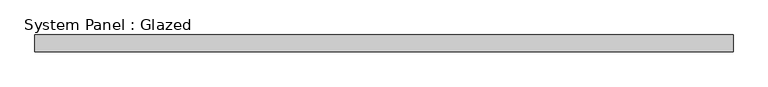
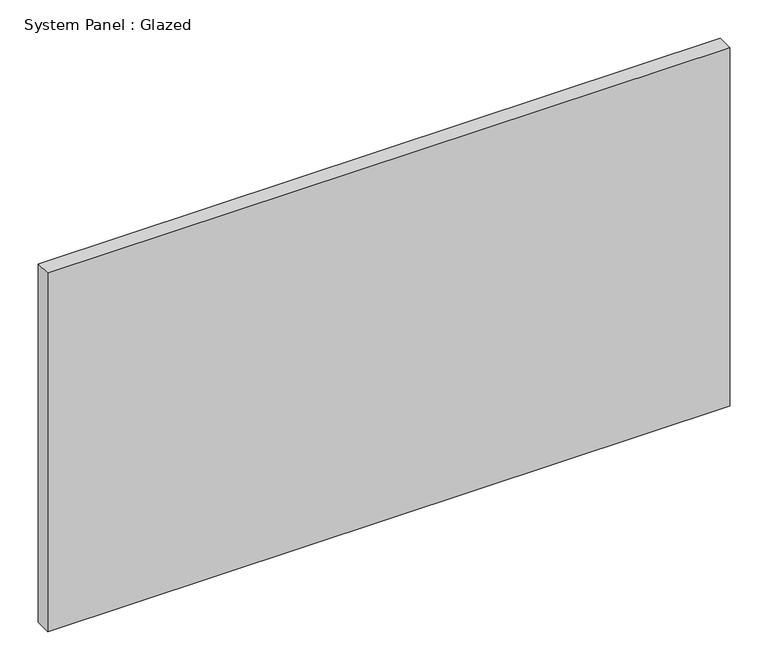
"""IFC4 building model written with IfcOpenShell, lengths in millimetres: plate geometry, System Panel : Glazed."""

from ifc_helpers import new_model, si_unit, origin, origin_with_axes, place, context, project, spatial, polyline, outline, extrude, source, transform, mapped, element, save


def system_panel_glazed_f915029c(model_context):
    return source(origin(), model_context, "Body", "SweptSolid", [
        extrude(outline(polyline([(517.5, -12.5), (-517.5, -12.5), (-517.5, 12.5), (517.5, 12.5), (517.5, -12.5)])), origin_with_axes(), (0.0, 0.0, 1.0), 575.0),
    ])


if __name__ == "__main__":
    model = new_model("IFC4")
    model_context = context("Model", 3, world=origin())
    ifc_project = project(units=[si_unit("LENGTHUNIT", "METRE", prefix="MILLI")], contexts=[model_context])
    site = spatial("IfcSite", under=ifc_project)
    building = spatial("IfcBuilding", under=site)
    placement = place(None, origin())
    system_panel_glazed_shape = system_panel_glazed_f915029c(model_context)
    element("IfcPlate", 1, ObjectType="System Panel : Glazed", at=placement, inside=building, context=model_context, shape_type="MappedRepresentation", body=[
        mapped(system_panel_glazed_shape, transform((0.0, 0.0, 0.0), x_axis=(1.0, 0.0, 0.0), y_axis=(0.0, 1.0, 0.0), z_axis=(0.0, 0.0, 1.0))),
    ])
    save(model, "model.ifc")
